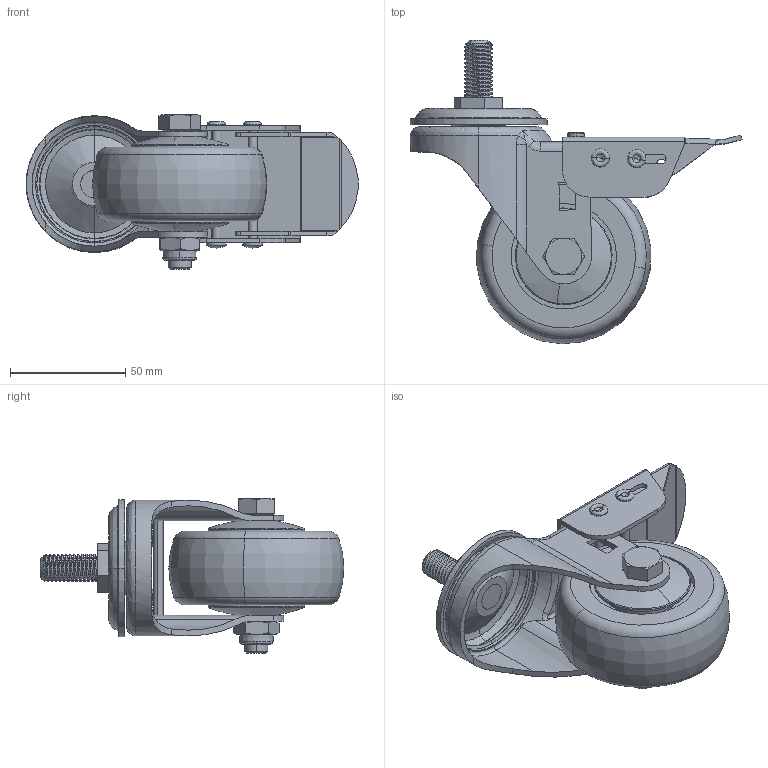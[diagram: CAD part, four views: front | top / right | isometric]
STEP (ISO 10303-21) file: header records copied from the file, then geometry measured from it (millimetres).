
FILE_DESCRIPTION (( 'STEP AP203' ), '1' );
FILE_NAME ('11390300456153.STEP', '2025-03-12T01:24:14', ( '20241006' ), ( '' ), 'SwSTEP 2.0', 'SolidWorks 2021', '' );
FILE_SCHEMA (( 'CONFIG_CONTROL_DESIGN' ));
Length unit declared in the file: millimetre
Products named in the file (11): _____T___2__A_O.STEP; 345_________2__A_O.STEP; 3____A_O.STEP; 314全效轮; _______T___2__A_O.STEP; M10_2_3__A_O.STEP; 39_________P_5__A_O.STEP; 3456_______________2__A_O.STEP; 12x25____.STEP; 11390300456153; hexagon head bolts gb_GB_FASTENER_BOLT_SB A M10X60-N_3__A_O.STEP
Assembly tree (12 placements, depth 2):
  11390300456153
    3____A_O.STEP
    39_________P_5__A_O.STEP
    3456_______________2__A_O.STEP
    345_________2__A_O.STEP
    _______T___2__A_O.STEP  x2
    _____T___2__A_O.STEP  x2
    M10_2_3__A_O.STEP
    hexagon head bolts gb_GB_FASTENER_BOLT_SB A M10X60-N_3__A_O.STEP
    12x25____.STEP
    314全效轮
Bounding box: 144.14 x 131.85 x 67.08 mm (x, y, z)
Volume: 186472.1 mm3; surface area: 67512.7 mm2
Topology: 12 solids, 12 shells, 398 faces, 971 edges, 606 vertices
Faces by surface type: cylinder 147, plane 119, bspline 64, cone 54, torus 10, sphere 4
Entity records: 17213 total; most frequent: CARTESIAN_POINT 7518, ORIENTED_EDGE 1828, DIRECTION 1748, EDGE_CURVE 914, AXIS2_PLACEMENT_3D 692, VERTEX_POINT 575, EDGE_LOOP 419, FACE_OUTER_BOUND 370
